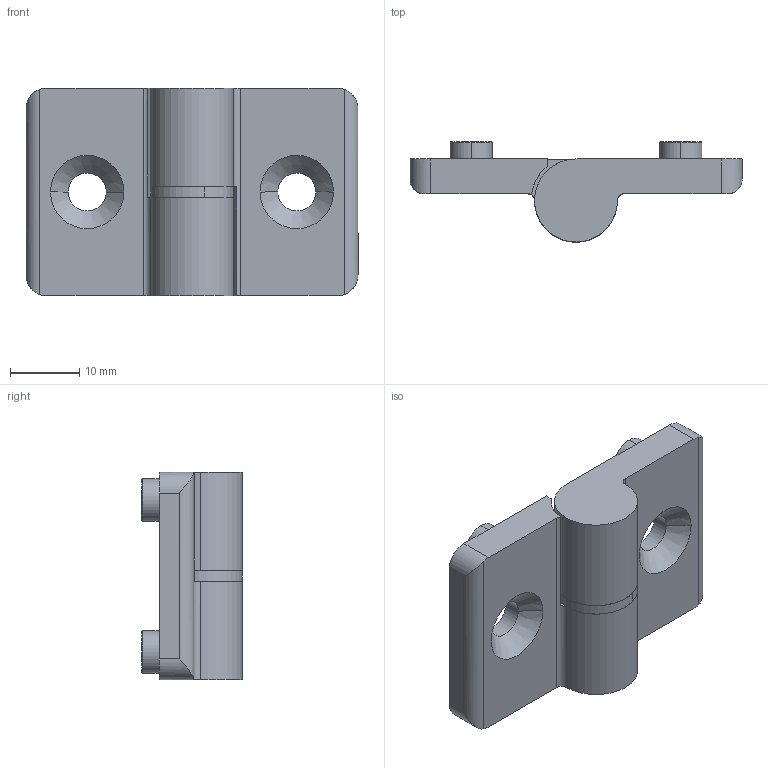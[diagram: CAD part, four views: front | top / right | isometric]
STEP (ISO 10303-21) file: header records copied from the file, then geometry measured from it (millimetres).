
FILE_DESCRIPTION (( 'STEP AP203' ), '1' );
FILE_NAME ('99900606_Scharnier 6 PA links.step', '2022-12-21T07:31:53', ( '' ), ( '' ), 'SwSTEP 2.0', 'SolidWorks 2021', '' );
FILE_SCHEMA (( 'CONFIG_CONTROL_DESIGN' ));
Length unit declared in the file: millimetre
Products named in the file (4): 99900606_Scharnier 6 PA links; 99900606 Scharnier 6 PA links Teil 2; 99900606 Scharnier 6 PA links Teil 3; 99900606 Scharnier 6 PA links Teil 1
Assembly tree (3 placements, depth 2):
  99900606_Scharnier 6 PA links
    99900606 Scharnier 6 PA links Teil 1
    99900606 Scharnier 6 PA links Teil 2
    99900606 Scharnier 6 PA links Teil 3
Bounding box: 48 x 14.5 x 30 mm (x, y, z)
Volume: 8952.6 mm3; surface area: 4950.2 mm2
Topology: 3 solids, 3 shells, 60 faces, 138 edges, 88 vertices
Faces by surface type: cylinder 28, plane 20, torus 8, cone 4
Entity records: 2194 total; most frequent: CARTESIAN_POINT 352, DIRECTION 340, ORIENTED_EDGE 276, AXIS2_PLACEMENT_3D 140, EDGE_CURVE 138, VERTEX_POINT 88, CIRCLE 74, EDGE_LOOP 68
